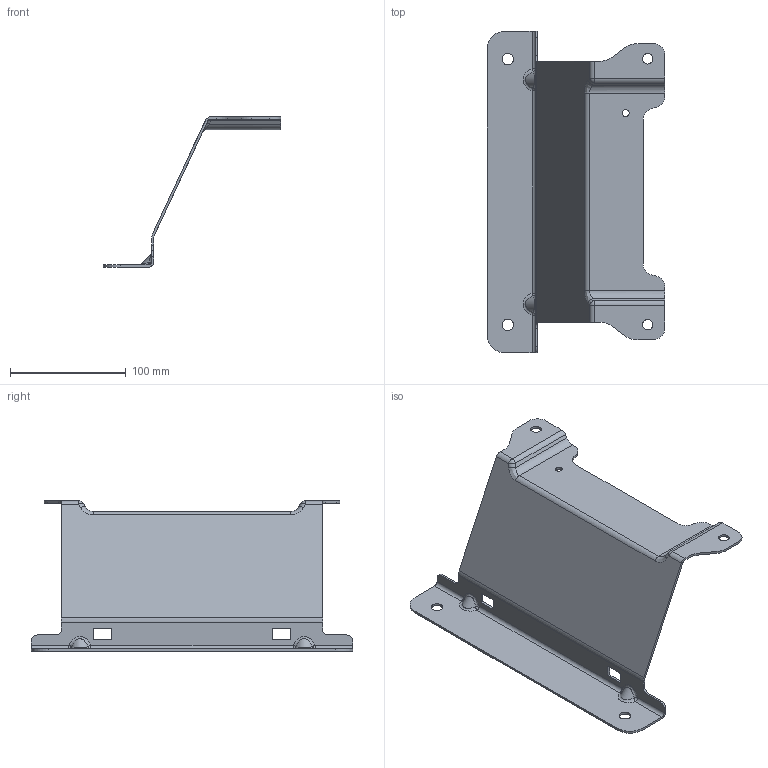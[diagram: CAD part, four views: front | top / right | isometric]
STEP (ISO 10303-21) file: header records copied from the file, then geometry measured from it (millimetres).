
FILE_DESCRIPTION(('CATIA V5 STEP Exchange'),'2;1');
FILE_NAME('E:\李燕龙\吉利商用车G3\10 2D\5.手动\5.钣金件图纸-整理后\标配底支架\SHT0016510-标配前支撑钣金\SHT0016510-B.stp','2024-04-18T00:28:02+00:00',('none'),('none'),'CATIA Version 5 Release 20 GA (IN-10)','CATIA V5 STEP AP214','none');
FILE_SCHEMA(('AUTOMOTIVE_DESIGN { 1 0 10303 214 1 1 1 1 }'));
Length unit declared in the file: millimetre
Products named in the file (1): SHT0016510
Bounding box: 154 x 278 x 130 mm (x, y, z)
Volume: 109401.5 mm3; surface area: 112029.9 mm2
Topology: 1 solids, 1 shells, 128 faces, 354 edges, 216 vertices
Faces by surface type: cylinder 64, plane 40, bspline 12, sphere 12
Entity records: 6467 total; most frequent: CARTESIAN_POINT 2519, ORIENTED_EDGE 684, DIRECTION 507, EDGE_CURVE 342, AXIS2_PLACEMENT_3D 217, VERTEX_POINT 216, VECTOR 186, LINE 186
